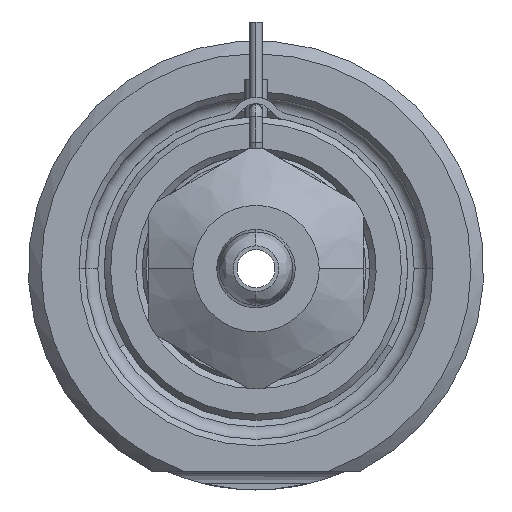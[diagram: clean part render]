
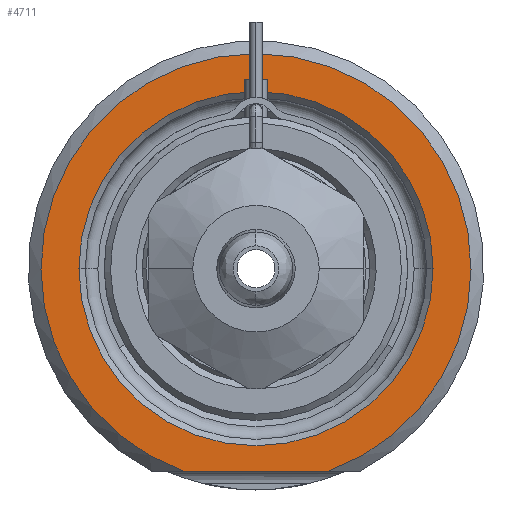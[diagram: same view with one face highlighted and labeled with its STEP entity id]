
A CAD part, front view. The second image highlights one B-rep face of the part: STEP entity #4711.
In plain terms, the highlighted planar face has unit normal (0, -1, 0).
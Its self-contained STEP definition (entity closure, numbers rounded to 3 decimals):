
#1425=DIRECTION('',(1.,0.,0.));
#1426=VECTOR('',#1425,11.489);
#1427=CARTESIAN_POINT('',(-5.745,0.,-16.));
#1428=LINE('',#1427,#1426);
#1429=CARTESIAN_POINT('',(0.,0.,0.));
#1430=DIRECTION('',(0.,1.,0.));
#1431=DIRECTION('',(-1.,0.,0.));
#1432=AXIS2_PLACEMENT_3D('',#1429,#1430,#1431);
#1434=CARTESIAN_POINT('',(0.,0.,0.));
#1435=DIRECTION('',(0.,1.,0.));
#1436=DIRECTION('',(1.,0.,0.));
#1437=AXIS2_PLACEMENT_3D('',#1434,#1435,#1436);
#1541=CARTESIAN_POINT('',(0.,0.,0.));
#1542=DIRECTION('',(0.,-1.,0.));
#1543=DIRECTION('',(0.338,0.,-0.941));
#1544=AXIS2_PLACEMENT_3D('',#1541,#1542,#1543);
#2513=CARTESIAN_POINT('',(-14.,0.,0.));
#2514=CARTESIAN_POINT('',(14.,0.,0.));
#2515=VERTEX_POINT('',#2513);
#2516=VERTEX_POINT('',#2514);
#2553=CARTESIAN_POINT('',(-5.745,0.,-16.));
#2554=CARTESIAN_POINT('',(5.745,0.,-16.));
#2555=VERTEX_POINT('',#2553);
#2556=VERTEX_POINT('',#2554);
#4695=CARTESIAN_POINT('',(0.,0.,0.));
#4696=DIRECTION('',(0.,-1.,0.));
#4697=DIRECTION('',(1.,0.,0.));
#4698=AXIS2_PLACEMENT_3D('',#4695,#4696,#4697);
#4699=PLANE('',#4698);
#4701=ORIENTED_EDGE('',*,*,#4700,.F.);
#4703=ORIENTED_EDGE('',*,*,#4702,.F.);
#4704=EDGE_LOOP('',(#4701,#4703));
#4705=FACE_OUTER_BOUND('',#4704,.F.);
#4707=ORIENTED_EDGE('',*,*,#4706,.F.);
#4708=ORIENTED_EDGE('',*,*,#4685,.F.);
#4709=EDGE_LOOP('',(#4707,#4708));
#4710=FACE_BOUND('',#4709,.F.);
#4711=ADVANCED_FACE('',(#4705,#4710),#4699,.T.);
#1433=CIRCLE('',#1432,14.);
#1438=CIRCLE('',#1437,14.);
#1545=CIRCLE('',#1544,17.);
#4685=EDGE_CURVE('',#2516,#2515,#1438,.T.);
#4700=EDGE_CURVE('',#2555,#2556,#1428,.T.);
#4702=EDGE_CURVE('',#2556,#2555,#1545,.T.);
#4706=EDGE_CURVE('',#2515,#2516,#1433,.T.);
